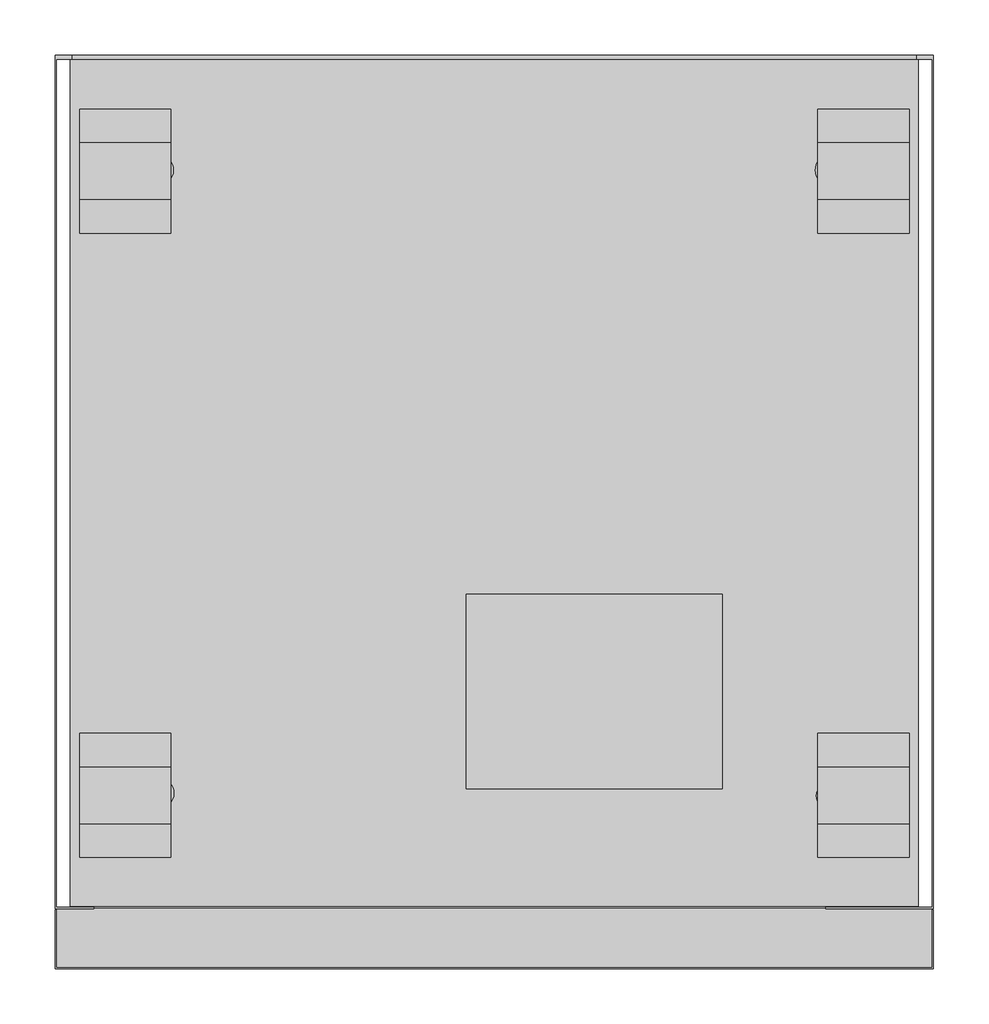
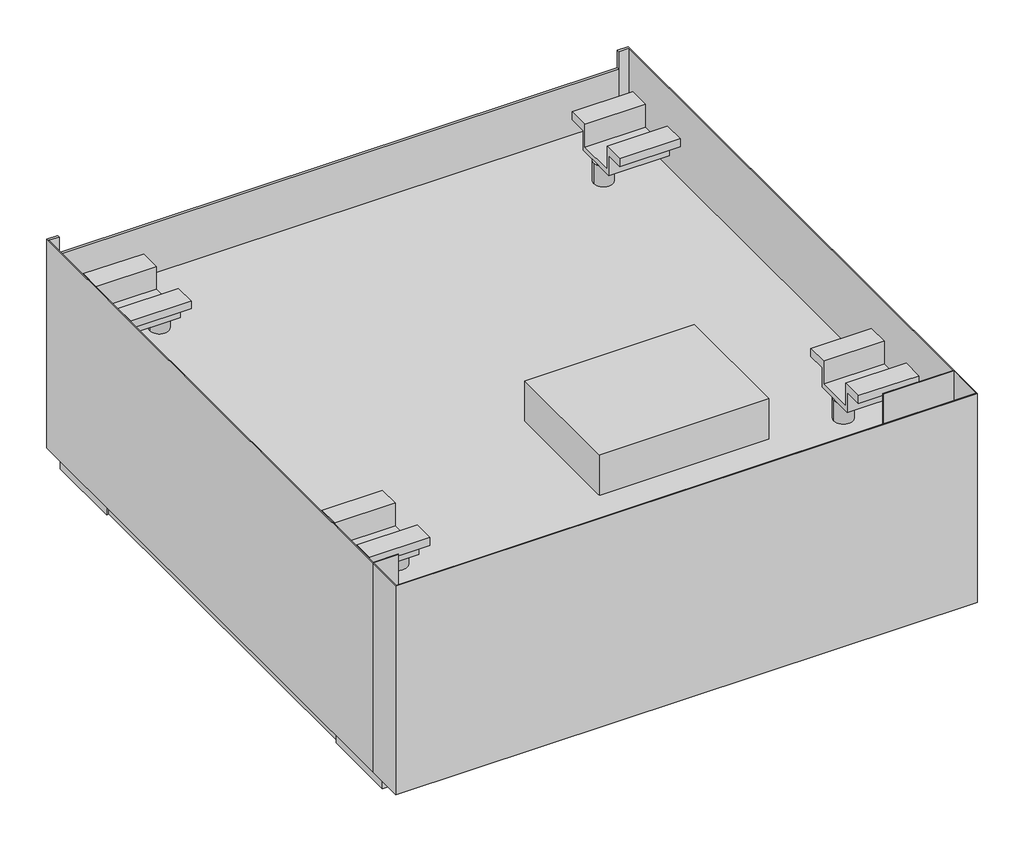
# Not in any storey: 1 proxy.
"""IFC4 building model written with IfcOpenShell, lengths in millimetres."""

from ifc_helpers import new_model, si_unit, origin, place, context, project, spatial, transform, mapped, element, save
from components import specialty_equipment_f6cd1360

model = new_model("IFC4")

# Units and contexts
model_context = context("Model", 3, world=origin())
ifc_project = project(units=[si_unit("LENGTHUNIT", "METRE", prefix="MILLI")], contexts=[model_context])

# Site, building
site = spatial("IfcSite", under=ifc_project)
building = spatial("IfcBuilding", under=site)

# Proxy
placement = place(None, origin())
specialty_equipment_shape = specialty_equipment_f6cd1360(model_context)
element("IfcBuildingElementProxy", 1, Name="11918120_EU_APWM040_SST : 59510040_EU_11918120_APWM040_SST", ObjectType="11918120_EU_APWM040_SST : 59510040_EU_11918120_APWM040_SST", at=placement, inside=building, context=model_context, shape_type="MappedRepresentation", body=[
    mapped(specialty_equipment_shape, transform((0.0, 0.0, 0.0), x_axis=(1.0, 0.0, 0.0), y_axis=(0.0, 1.0, 0.0), z_axis=(0.0, 0.0, 1.0))),
])

save(model, "model.ifc")
